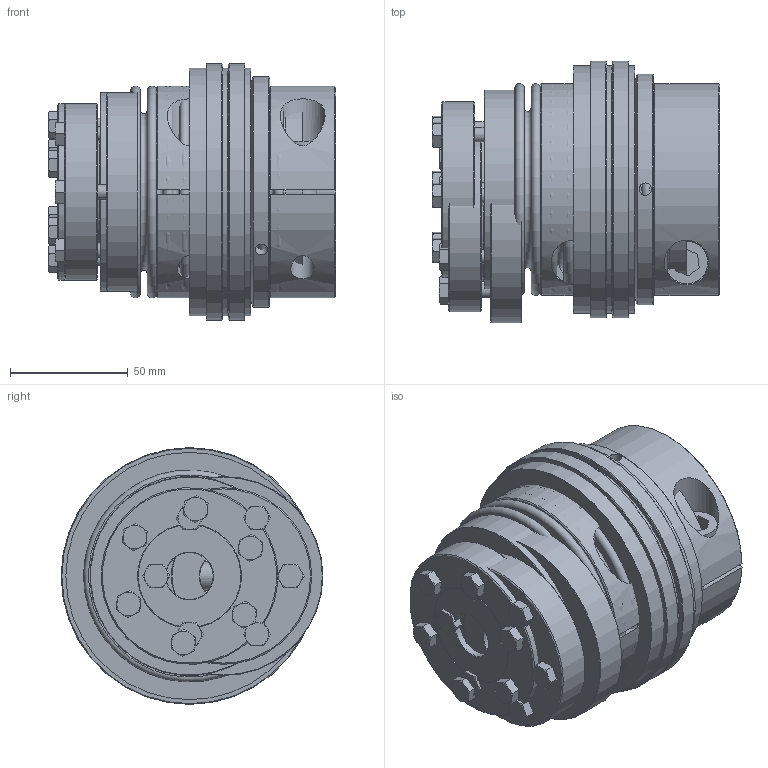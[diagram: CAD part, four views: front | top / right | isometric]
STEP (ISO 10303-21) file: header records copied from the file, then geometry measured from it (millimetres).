
FILE_DESCRIPTION( ( 'Unknown' ), '1' );
FILE_NAME( 'C:/Dokumente und Einstellungen/SKarpstein/Desktop/Korrigierte 3D Modelle/KBK-B-AK/KBK-BAK-200-122.stp', 'Unknown', ( 'Unknown' ), ( 'Unknown' ), 'XStep 1.0', 'Unknown', ' ' );
FILE_SCHEMA( ( 'automotive_design' ) );
Length unit declared in the file: millimetre
Products named in the file (13): Assem1; Assem2; Assem3; Hex Screw GradeC_DIN_ISO 4018 - M6 x 30-NN_1; BA200_Standard; DR200_Standard; Zylinderschraube DIN 912_2; Stellring 200; Druckring 200; KBK L-K-200 Grundkörper; Klemmnabe 200; Flansch BK200; BK200_Standard_0
Bounding box: 121.95 x 111.07 x 109 mm (x, y, z)
Volume: 1307831.1 mm3; surface area: 433202.2 mm2
Topology: 34 solids, 34 shells, 604 faces, 1269 edges, 813 vertices
Faces by surface type: plane 256, cone 167, cylinder 139, torus 42
Full cylindrical faces by diameter (mm): 3.242 x6, 5 x18, 5.2 x12, 6 x13, 6.6 x18, 10.106 x2, 12 x3, 12.5 x2, 18 x3, 19 x2, 20 x5, 45 x2, 47 x2, 49.29 x3, 50 x4, 60 x2, 62 x2, 65 x2, 66 x4, 75 x3, 77 x2, 79.2 x4, 80.4 x4, 84.5 x3, 90 x2, 98 x2, 105 x4, 109 x2
Entity records: 5188 total; most frequent: CARTESIAN_POINT 1261, DIRECTION 812, ORIENTED_EDGE 512, AXIS2_PLACEMENT_3D 383, EDGE_LOOP 370, FACE_OUTER_BOUND 259, EDGE_CURVE 256, VERTEX_POINT 224
